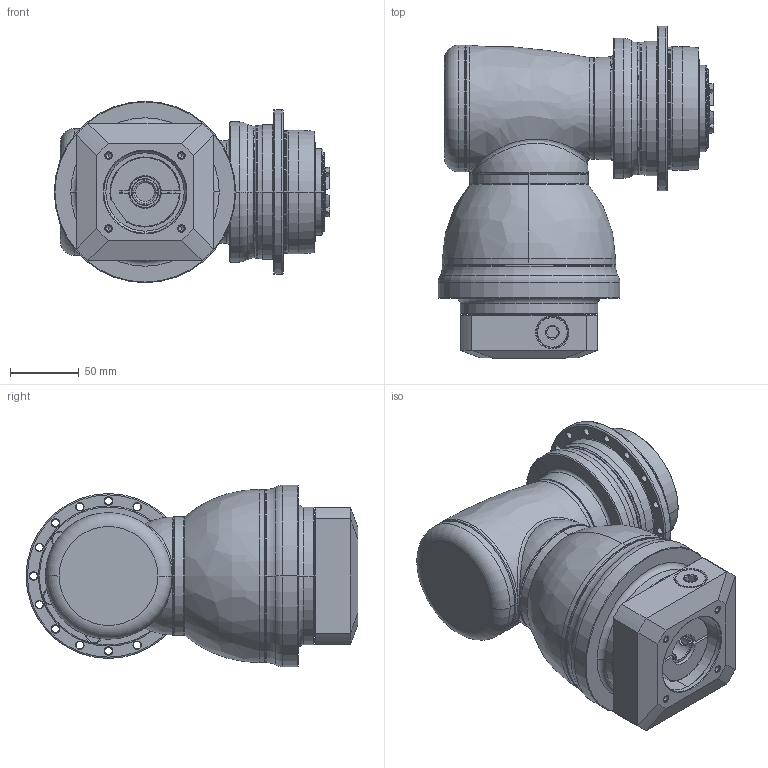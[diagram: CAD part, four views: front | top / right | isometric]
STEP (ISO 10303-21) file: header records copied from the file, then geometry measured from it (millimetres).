
FILE_DESCRIPTION((''),'2;1');
FILE_NAME('APCK090_2ST_SBG_19-P0409410201_ASM','2018-10-24T',('d01226'),(''),'PRO/ENGINEER BY PARAMETRIC TECHNOLOGY CORPORATION, 2015240','PRO/ENGINEER BY PARAMETRIC TECHNOLOGY CORPORATION, 2015240','');
FILE_SCHEMA(('CONFIG_CONTROL_DESIGN'));
Length unit declared in the file: millimetre
Products named in the file (13): P0278301003; P0359330103; P1211300001; P1802310011; P1018400002; P1365400001; P1007401001; P1318410001; P0409410201; P0503400008; P0912400201; 21711416017; APCK090_2ST_SBG_19-P0409410201_ASM
Assembly tree (12 placements, depth 2):
  APCK090_2ST_SBG_19-P0409410201_ASM
    P0278301003
    P0359330103
    P1211300001
    P1802310011
    P1018400002
    P1365400001
    P1007401001
    P1318410001
    P0409410201
    P0503400008
    P0912400201
    21711416017
Bounding box: 200.4 x 241.5 x 132 mm (x, y, z)
Volume: 2582998.4 mm3; surface area: 312696.9 mm2
Topology: 13 solids, 23 shells, 715 faces, 1665 edges, 1014 vertices
Faces by surface type: cylinder 246, cone 181, plane 149, torus 101, bspline 37, sphere 1
Entity records: 27924 total; most frequent: CARTESIAN_POINT 11153, DIRECTION 3744, ORIENTED_EDGE 3260, EDGE_CURVE 1651, AXIS2_PLACEMENT_3D 1615, VERTEX_POINT 1014, CIRCLE 902, EDGE_LOOP 815
